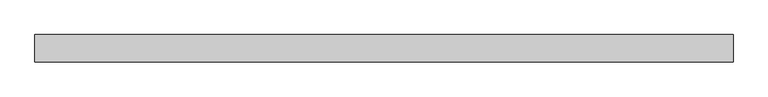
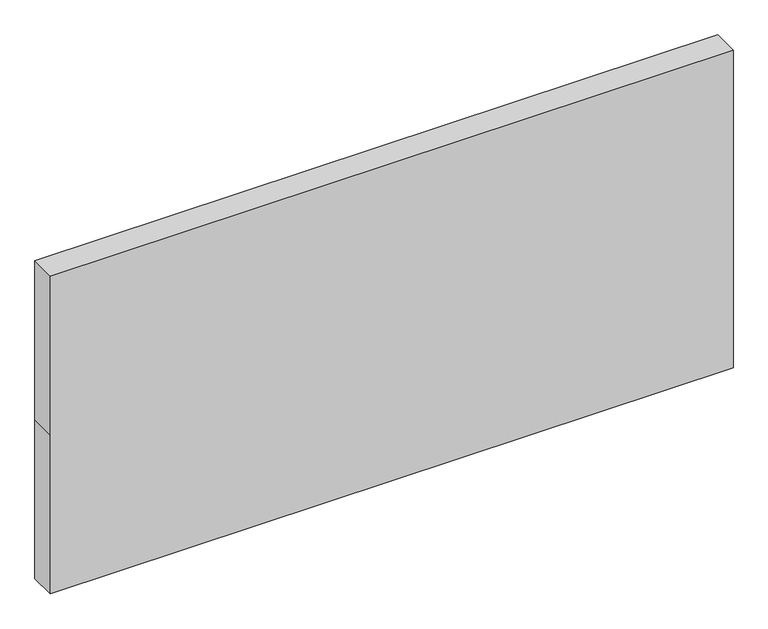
"""IFC4 building model written with IfcOpenShell, lengths in millimetres: plate geometry, 系统嵌板 : 玻璃."""

import ifcopenshell
import ifcopenshell.guid

model = None  # the IFC model being written
_history = None  # IfcOwnerHistory: only IFC2X3 demands one
_inside = {}  # id of a spatial element -> (the spatial element, [elements in it])
_under = {}  # id of a project, library or spatial element -> (it, [spatial elements below it])
_declared = {}  # id of a project -> (the project, [libraries it declares])
_typed = {}  # id of a type object -> (the type object, [elements of that type])
_made_of = {}  # id of a material, layer set ... -> (it, [elements and type objects made of it])


def new_model(schema):
    """Start an empty IFC model of exactly this schema.

    Asked for "IFC4X3", IfcOpenShell would pick the latest addendum, in which some entities
    have other attributes; the version numbers below select the first issue.
    IFC2X3 requires an IfcOwnerHistory on every rooted entity: one is made here for all.
    """
    global model, _history
    if schema == "IFC4X3":
        model = ifcopenshell.file(schema_version=(4, 3, 0, 0))
    else:
        model = ifcopenshell.file(schema=schema)
    _inside.clear()
    _under.clear()
    _declared.clear()
    _typed.clear()
    _made_of.clear()
    _history = None
    if model.schema == "IFC2X3":
        org = make("IfcOrganization", Name="unknown")
        user = make(
            "IfcPersonAndOrganization",
            ThePerson=make("IfcPerson", FamilyName="unknown"),
            TheOrganization=org,
        )
        app = make(
            "IfcApplication",
            ApplicationDeveloper=org,
            Version="unknown",
            ApplicationFullName="unknown",
            ApplicationIdentifier="unknown",
        )
        _history = make(
            "IfcOwnerHistory",
            OwningUser=user,
            OwningApplication=app,
            ChangeAction="ADDED",
            CreationDate=0,
        )
    return model


def make(cls, **values):
    """One entity of the class cls with the attributes given. An attribute that is None is left unset."""
    return model.create_entity(
        cls, **{name: value for name, value in values.items() if value is not None}
    )


def rooted(cls, **values):
    """An entity with a GlobalId (a new one), such as an element, a storey or a relation."""
    return make(cls, GlobalId=ifcopenshell.guid.new(), OwnerHistory=_history, **values)


def si_unit(unit_type, name, prefix=None):
    """IfcSIUnit, for example si_unit("LENGTHUNIT", "METRE", prefix="MILLI")."""
    return make("IfcSIUnit", UnitType=unit_type, Prefix=prefix, Name=name)


def assignment(units):
    """IfcUnitAssignment: the units of a project."""
    return None if units is None else make("IfcUnitAssignment", Units=units)


def point(xyz):
    """IfcCartesianPoint."""
    return None if xyz is None else make("IfcCartesianPoint", Coordinates=xyz)


def direction(xyz):
    """IfcDirection."""
    return None if xyz is None else make("IfcDirection", DirectionRatios=xyz)


def frame(location, z_axis=None, x_axis=None):
    """IfcAxis2Placement3D, a coordinate frame: its origin and axes. An axis left out is left unset."""
    return make(
        "IfcAxis2Placement3D",
        Location=point(location),
        Axis=direction(z_axis),
        RefDirection=direction(x_axis),
    )


def origin():
    """The frame at (0, 0, 0) with its axes left unset."""
    return frame((0.0, 0.0, 0.0))


def place(relative_to, where):
    """IfcLocalPlacement: puts the frame where relative to a parent placement (None: the world)."""
    return make(
        "IfcLocalPlacement", PlacementRelTo=relative_to, RelativePlacement=where
    )


def context(
    kind, dimensions, precision=None, world=None, true_north=None, identifier=None
):
    """IfcGeometricRepresentationContext, for example the 3D "Model" context."""
    return make(
        "IfcGeometricRepresentationContext",
        ContextIdentifier=identifier,
        ContextType=kind,
        CoordinateSpaceDimension=dimensions,
        Precision=precision,
        WorldCoordinateSystem=world,
        TrueNorth=true_north,
    )


def project(units=None, contexts=None):
    """IfcProject with its units and contexts."""
    return rooted(
        "IfcProject",
        Name="project",
        RepresentationContexts=contexts,
        UnitsInContext=assignment(units),
    )


def spatial(cls, under=None, at=None, **own):
    """A site, building, storey or space (cls), placed at a placement, below another one or the project."""
    s = rooted(cls, ObjectPlacement=at, **own)
    if under is not None:
        _under.setdefault(under.id(), (under, []))[1].append(s)
    return s


def polyline(points):
    """IfcPolyline through the points."""
    return make("IfcPolyline", Points=[point(p) for p in points])


def outline(outer, holes=None, kind="AREA"):
    """IfcArbitraryClosedProfileDef: a profile drawn as a closed curve; with holes, ...WithVoids."""
    if holes is None:
        return make("IfcArbitraryClosedProfileDef", ProfileType=kind, OuterCurve=outer)
    return make(
        "IfcArbitraryProfileDefWithVoids",
        ProfileType=kind,
        OuterCurve=outer,
        InnerCurves=holes,
    )


def extrude(swept, where, along, depth):
    """IfcExtrudedAreaSolid: the profile swept, set in the frame where, extruded along a direction by depth."""
    return make(
        "IfcExtrudedAreaSolid",
        SweptArea=swept,
        Position=where,
        ExtrudedDirection=direction(along),
        Depth=depth,
    )


def shape(context_of_items, identifier, shape_type, items):
    """IfcShapeRepresentation: the items that make up one representation, for example the "Body"."""
    return make(
        "IfcShapeRepresentation",
        ContextOfItems=context_of_items,
        RepresentationIdentifier=identifier,
        RepresentationType=shape_type,
        Items=items,
    )


def source(mapping_origin, context_of_items, identifier, shape_type, items):
    """IfcRepresentationMap: a shape defined once, which mapped items show again and again."""
    return make(
        "IfcRepresentationMap",
        MappingOrigin=mapping_origin,
        MappedRepresentation=shape(context_of_items, identifier, shape_type, items),
    )


def transform(
    local_origin,
    x_axis=None,
    y_axis=None,
    z_axis=None,
    scale=None,
    scale2=None,
    scale3=None,
    uniform=True,
):
    """IfcCartesianTransformationOperator3D, or its non-uniform kind. x_axis, y_axis, z_axis: its Axis1, 2, 3."""
    if uniform:
        return make(
            "IfcCartesianTransformationOperator3D",
            Axis1=direction(x_axis),
            Axis2=direction(y_axis),
            LocalOrigin=point(local_origin),
            Scale=scale,
            Axis3=direction(z_axis),
        )
    return make(
        "IfcCartesianTransformationOperator3DnonUniform",
        Axis1=direction(x_axis),
        Axis2=direction(y_axis),
        LocalOrigin=point(local_origin),
        Scale=scale,
        Axis3=direction(z_axis),
        Scale2=scale2,
        Scale3=scale3,
    )


def mapped(mapping_source, mapping_target):
    """IfcMappedItem: shows the shape of a source again, moved by a transform."""
    return make(
        "IfcMappedItem", MappingSource=mapping_source, MappingTarget=mapping_target
    )


def made_of(thing, what):
    """Note that an element or type object is made of a material, layer set ...; save() writes the relation."""
    if what is not None:
        _made_of.setdefault(what.id(), (what, []))[1].append(thing)
    return thing


def element(
    cls,
    number,
    at=None,
    inside=None,
    cuts=None,
    type_object=None,
    material=None,
    context=None,
    identifier="Body",
    shape_type=None,
    held_by="IfcProductDefinitionShape",
    body=None,
    shapes=None,
    **own,
):
    """One element of the class cls, such as IfcWall. Its Tag is "e" and its number.

    at: its placement. inside: the storey or other place that contains it. cuts: it is an
    opening in that element (IfcRelVoidsElement). A single representation is given by context,
    identifier, shape_type and body (its items); several are given by shapes. held_by: the class
    of the entity that holds the representations. save() writes the other relations.
    """
    e = rooted(cls, Tag="e%d" % number, ObjectPlacement=at, **own)
    if body is not None:
        shapes = [shape(context, identifier, shape_type, body)]
    if shapes is not None:
        e.Representation = make(held_by, Representations=shapes)
    if inside is not None:
        _inside.setdefault(inside.id(), (inside, []))[1].append(e)
    if cuts is not None:
        rooted(
            "IfcRelVoidsElement", RelatingBuildingElement=cuts, RelatedOpeningElement=e
        )
    if type_object is not None:
        _typed.setdefault(type_object.id(), (type_object, []))[1].append(e)
    return made_of(e, material)


def aggregate(whole, parts):
    """IfcRelAggregates: a whole, such as a stair, and the parts it consists of."""
    return rooted("IfcRelAggregates", RelatingObject=whole, RelatedObjects=parts)


def save(model, path):
    """Write the relations noted so far, then the file.

    IfcRelAggregates (storeys below a building ...), IfcRelContainedInSpatialStructure (elements
    in a storey), IfcRelDefinesByType, IfcRelAssociatesMaterial and IfcRelDeclares: one each for
    every whole, place, type object, material and project.
    """
    for whole, parts in _under.values():
        aggregate(whole, parts)
    for where, things in _inside.values():
        rooted(
            "IfcRelContainedInSpatialStructure",
            RelatedElements=things,
            RelatingStructure=where,
        )
    for kind, things in _typed.values():
        rooted("IfcRelDefinesByType", RelatedObjects=things, RelatingType=kind)
    for what, things in _made_of.values():
        rooted("IfcRelAssociatesMaterial", RelatedObjects=things, RelatingMaterial=what)
    for by, libraries in _declared.values():
        rooted("IfcRelDeclares", RelatingContext=by, RelatedDefinitions=libraries)
    model.write(path)


def plate_973c4cc4(model_context):
    return source(origin(), model_context, "Body", "SweptSolid", [
        extrude(outline(polyline([(0.0, -762.5), (0.0, 762.5), (375.0, 762.5), (750.0, 762.5), (750.0, -762.5), (375.0, -762.5), (0.0, -762.5)])), frame((0.0, -30.0, 0.0), z_axis=(0.0, 1.0, 0.0), x_axis=(0.0, 0.0, 1.0)), (0.0, 0.0, 1.0), 60.0),
    ])


if __name__ == "__main__":
    model = new_model("IFC4")
    model_context = context("Model", 3, world=origin())
    ifc_project = project(units=[si_unit("LENGTHUNIT", "METRE", prefix="MILLI")], contexts=[model_context])
    site = spatial("IfcSite", under=ifc_project)
    building = spatial("IfcBuilding", under=site)
    placement = place(None, origin())
    plate_shape = plate_973c4cc4(model_context)
    element("IfcPlate", 1, ObjectType="系统嵌板 : 玻璃", at=placement, inside=building, context=model_context, shape_type="MappedRepresentation", body=[
        mapped(plate_shape, transform((0.0, 0.0, 0.0), x_axis=(1.0, 0.0, 0.0), y_axis=(0.0, 1.0, 0.0), z_axis=(0.0, 0.0, 1.0))),
    ])
    save(model, "model.ifc")
